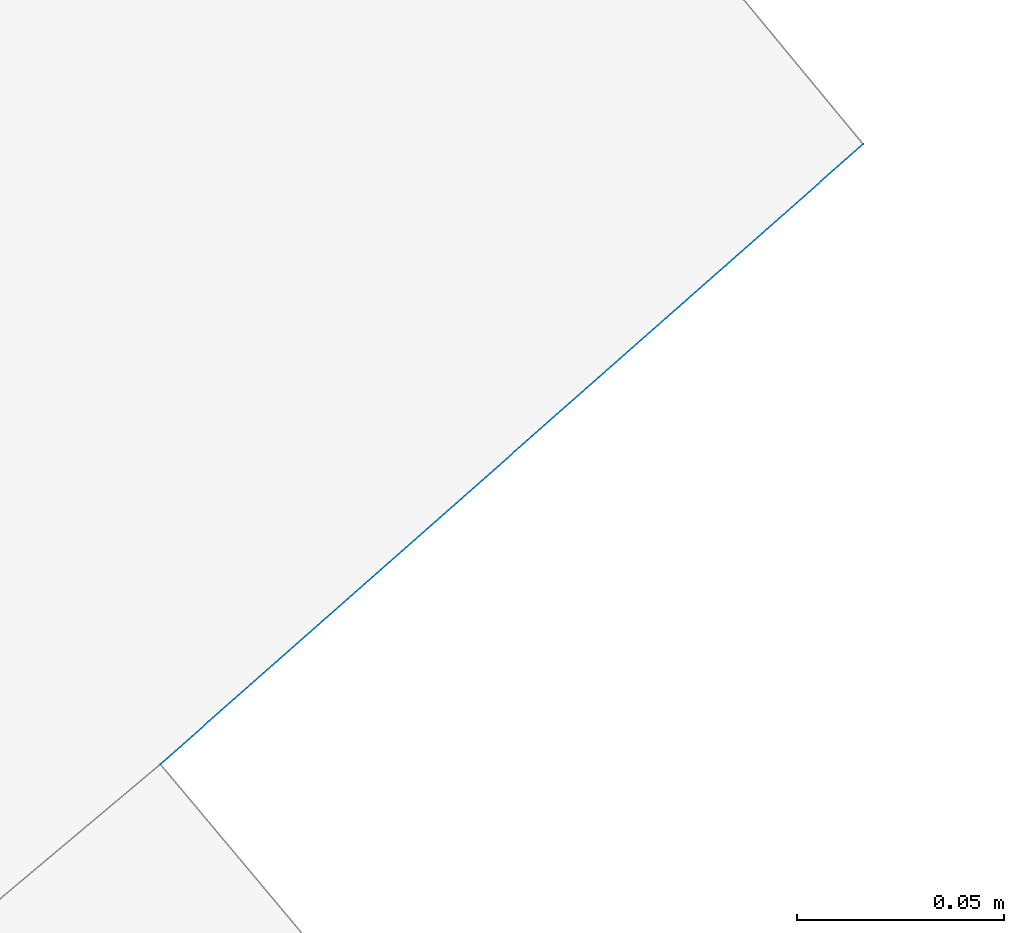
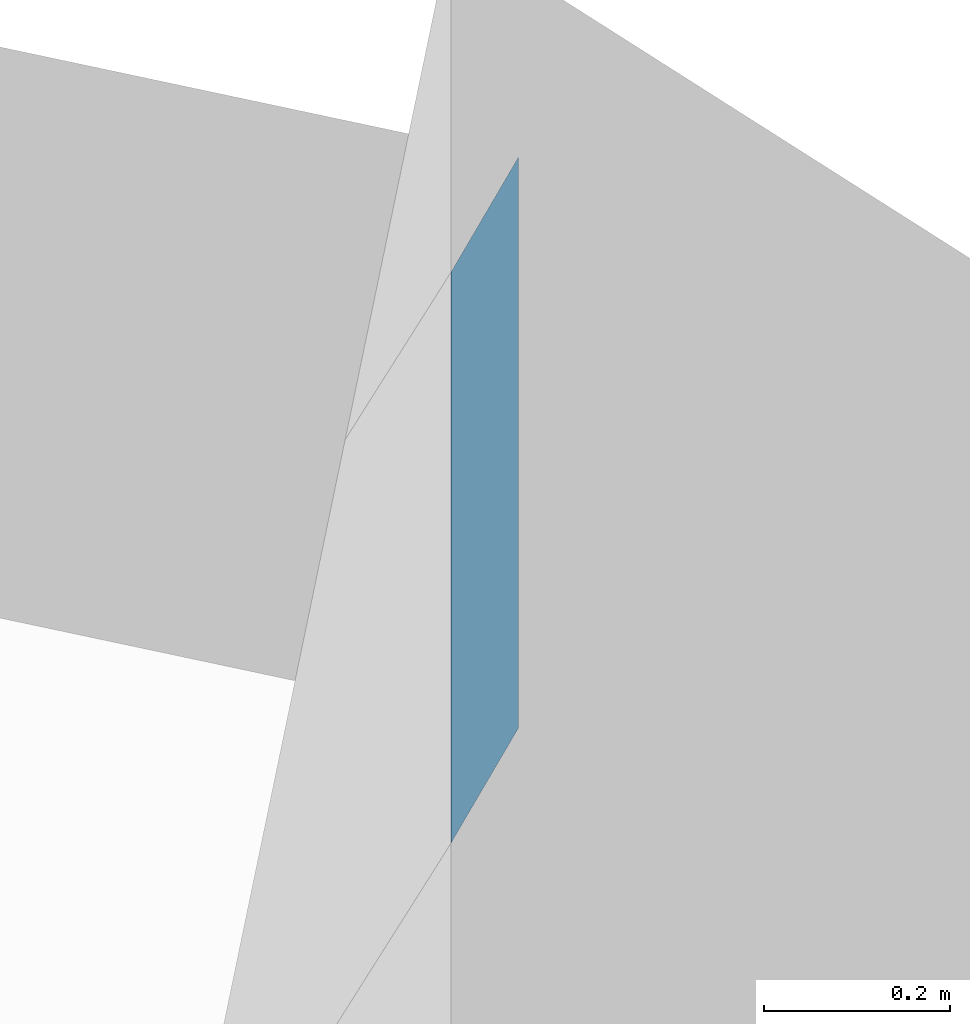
# Not in any storey, part 103 of 136: 2 walls.
"""IFC2X3 building model written with IfcOpenShell, lengths in metres."""

from ifc_helpers import new_model, entity, si_unit, converted_unit, frame, origin, place, context, subcontext, project, spatial, face_set, surface_model, element, save


model = new_model("IFC2X3")

# Units and contexts
model_context = context("Model", 3, precision=1e-05, world=origin())
body_context = subcontext(model_context, "Body", "Model", "MODEL_VIEW")
ifc_project = project(units=[converted_unit("PLANEANGLEUNIT", "DEGREE", entity("IfcRatioMeasure", 0.0174532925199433), si_unit("PLANEANGLEUNIT", "RADIAN"), dimensions=[0, 0, 0, 0, 0, 0, 0]), si_unit("AREAUNIT", "SQUARE_METRE"), si_unit("LENGTHUNIT", "METRE")], contexts=[model_context])

# Site, building
site_placement = place(None, origin())
site = spatial("IfcSite", under=ifc_project, at=site_placement, Name="_site", CompositionType="ELEMENT")
building_placement = place(site_placement, origin())
building = spatial("IfcBuilding", under=site, at=building_placement, Name="_building", CompositionType="ELEMENT")

# Walls
for number, where, name in (
    (1, (0.0, 0.0, 0.0), "Wall"),
    (2, (0.0, 0.0, 0.0), "Wall"),
):
    element("IfcWall", number, at=place(building_placement, frame(where)), inside=building, Name=name, context=body_context, shape_type="SurfaceModel", body=[
        surface_model("IfcFaceBasedSurfaceModel", [(59.64, 84.86, 47.93), (59.47, 84.71, 47.93), (59.47, 84.71, 48.68), (59.64, 84.86, 48.68)], [face_set([[[0, 1, 2, 3]]])]),
    ])

save(model, "model.ifc")
